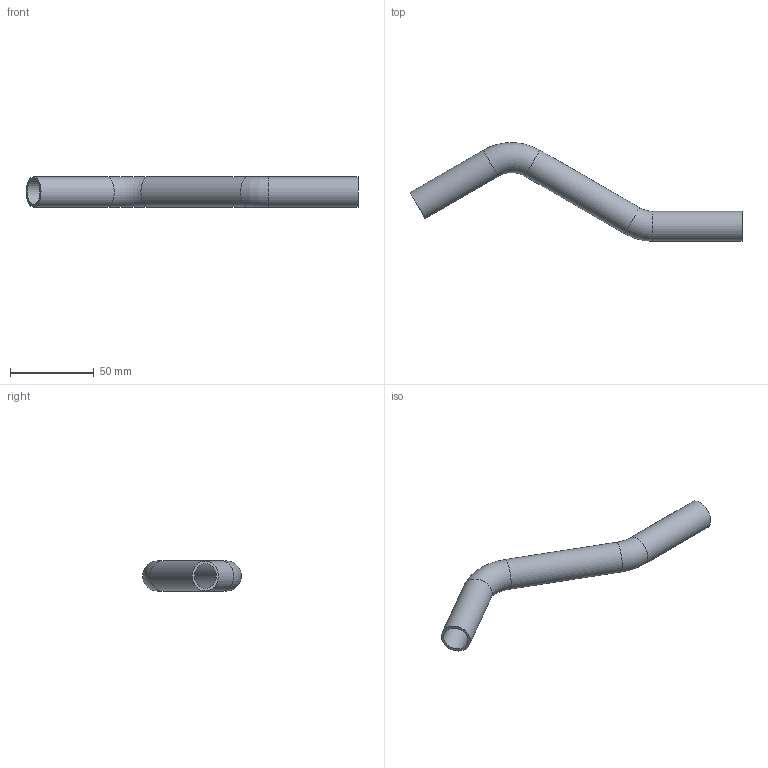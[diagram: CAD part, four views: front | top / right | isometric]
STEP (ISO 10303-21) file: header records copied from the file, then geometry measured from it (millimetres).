
FILE_DESCRIPTION((''),'2;1');
FILE_NAME('G:\Technics\CAD\Bauteile\018\6908718(1).stp','2008-02-14T10:10:19',('herberg'),(''),'Autodesk Inventor 2008','Autodesk Inventor 2008','');
FILE_SCHEMA(('AUTOMOTIVE_DESIGN { 1 0 10303 214 1 1 1 1 }'));
Length unit declared in the file: millimetre
Products named in the file (1): 6908718(1)
Bounding box: 198.79 x 59.12 x 18 mm (x, y, z)
Volume: 16489.5 mm3; surface area: 22141.5 mm2
Topology: 1 solids, 1 shells, 12 faces, 22 edges, 12 vertices
Faces by surface type: cylinder 6, torus 4, plane 2
Full cylindrical faces by diameter (mm): 15 x3, 18 x3
Entity records: 274 total; most frequent: DIRECTION 50, CARTESIAN_POINT 37, AXIS2_PLACEMENT_3D 25, ORIENTED_EDGE 24, EDGE_LOOP 24, VERTEX_POINT 12, CIRCLE 12, EDGE_CURVE 12
